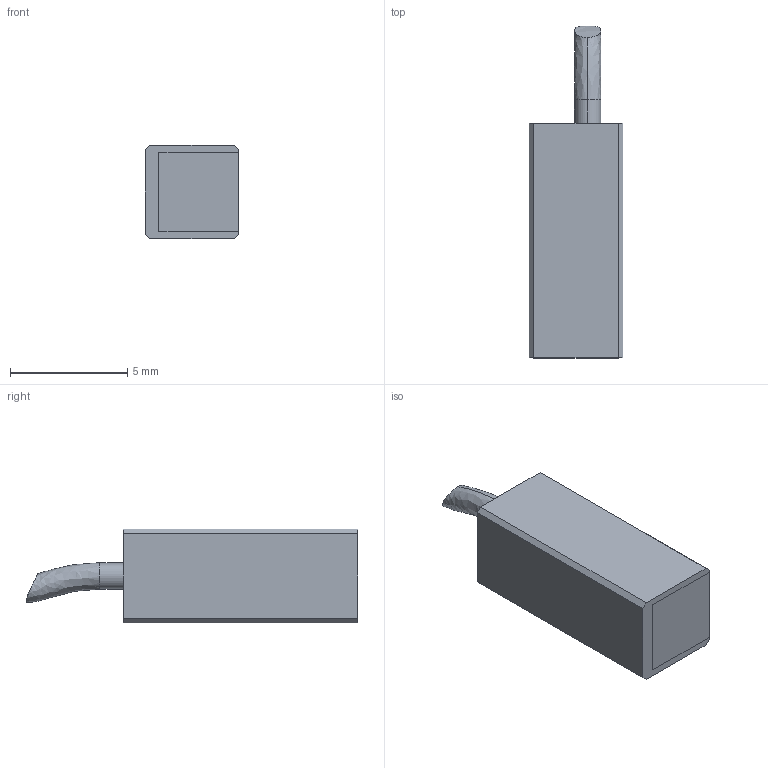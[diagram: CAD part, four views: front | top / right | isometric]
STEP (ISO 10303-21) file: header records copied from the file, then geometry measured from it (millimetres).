
FILE_DESCRIPTION((''),'2;1');
FILE_NAME('0000052084_ASM','2014-01-17T',('11000065'),(''),'PRO/ENGINEER BY PARAMETRIC TECHNOLOGY CORPORATION, 2013230','PRO/ENGINEER BY PARAMETRIC TECHNOLOGY CORPORATION, 2013230','');
FILE_SCHEMA(('AUTOMOTIVE_DESIGN { 1 0 10303 214 1 1 1 1 }'));
Length unit declared in the file: millimetre
Products named in the file (4): 0000052089; 0000052092_AF0; 0000052103; 0000052084_ASM
Assembly tree (3 placements, depth 2):
  0000052084_ASM
    0000052089
    0000052092_AF0
    0000052103
Bounding box: 4 x 14.15 x 4 mm (x, y, z)
Volume: 220 mm3; surface area: 419.9 mm2
Topology: 3 solids, 3 shells, 37 faces, 88 edges, 58 vertices
Faces by surface type: plane 24, cylinder 10, bspline 2, extrusion 1
Entity records: 1468 total; most frequent: CARTESIAN_POINT 361, DIRECTION 187, ORIENTED_EDGE 176, EDGE_CURVE 88, AXIS2_PLACEMENT_3D 63, VECTOR 61, LINE 60, VERTEX_POINT 58
